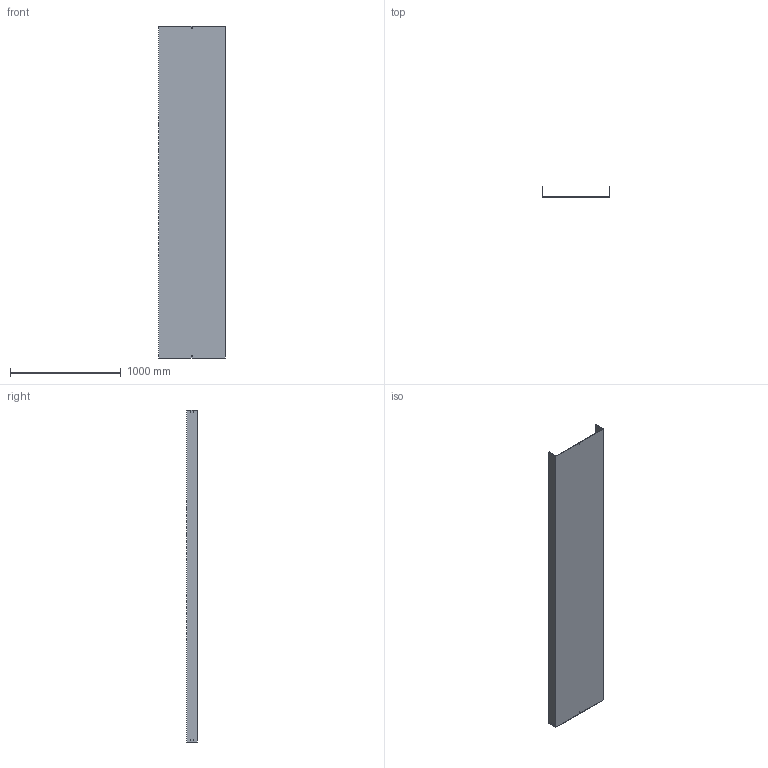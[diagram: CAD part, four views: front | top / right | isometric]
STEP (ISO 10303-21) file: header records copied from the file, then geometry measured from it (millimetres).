
FILE_DESCRIPTION (( 'STEP AP214' ), '1' );
FILE_NAME ('03B3I600.step', '2025-02-21T10:27:40', ( '' ), ( '' ), 'SwSTEP 2.0', 'SolidWorks 2023', '' );
FILE_SCHEMA (( 'AUTOMOTIVE_DESIGN' ));
Length unit declared in the file: millimetre
Products named in the file (1): 03B3I600
Bounding box: 604 x 92.5 x 3000 mm (x, y, z)
Volume: 8208630.5 mm3; surface area: 4718289 mm2
Topology: 1 solids, 1 shells, 50 faces, 144 edges, 96 vertices
Faces by surface type: plane 50
Entity records: 1671 total; most frequent: CARTESIAN_POINT 291, ORIENTED_EDGE 288, DIRECTION 246, EDGE_CURVE 144, VECTOR 144, LINE 144, VERTEX_POINT 96, EDGE_LOOP 70
